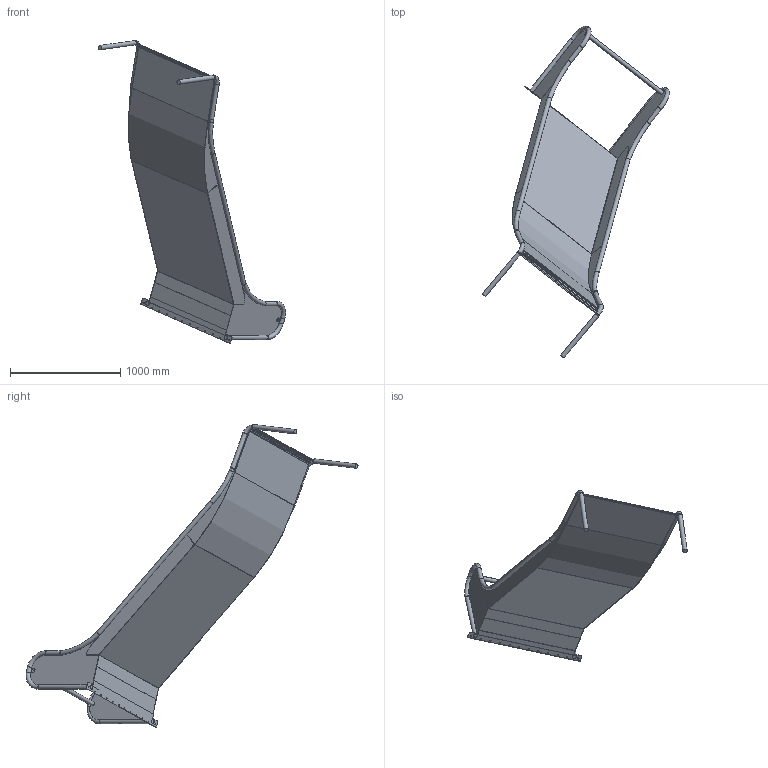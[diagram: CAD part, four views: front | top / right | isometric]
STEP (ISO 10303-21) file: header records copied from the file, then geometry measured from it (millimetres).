
FILE_DESCRIPTION(/* description */ (''),/* implementation_level */ '2;1');
FILE_NAME(/* name */ 'F:\_Inventor\- Tegningsmateriale - kunder\PlayNsafe\PlayNsafe Rutchebaner\Ny mappe\120-1400-1000.stp',/* time_stamp */ '2026-09-08T15:18:39+02:00',/* author */ ('jm'),/* organization */ (''),/* preprocessor_version */ 'ST-DEVELOPER v18.1',/* originating_system */ 'Autodesk Inventor 2022',/* authorisation */ '');
FILE_SCHEMA (('AUTOMOTIVE_DESIGN { 1 0 10303 214 3 1 1 }'));
Length unit declared in the file: millimetre
Products named in the file (11): 120-1400-1000; 120-1000-1000 udløb; 120-2400-1000 bue; 120-2400-1000 udløb; Lb2200 venstre; 120-1400-1000 indløb; 120-2400-1000 forlængerplade til lang siddeområ
de; 120-2400-1000 fortryderstang; 120-2400-1000 monteringsflange; 120-2400-1000 øre; 100-1400-500 rør
Assembly tree (13 placements, depth 3):
  120-1400-1000
    120-1000-1000 udløb
      120-2400-1000 bue
      120-2400-1000 udløb
      Lb2200 venstre  x2
    120-1400-1000 indløb
    120-2400-1000 forlængerplade til lang siddeområ
de
    120-2400-1000 fortryderstang
    120-2400-1000 øre  x2
    120-2400-1000 monteringsflange
    100-1400-500 rør  x2
Bounding box: 1700.37 x 3016.21 x 2751.25 mm (x, y, z)
Volume: 19645746.1 mm3; surface area: 9005499.4 mm2
Topology: 12 solids, 12 shells, 283 faces, 683 edges, 428 vertices
Faces by surface type: plane 147, cylinder 109, cone 10, torus 10, bspline 7
Full cylindrical faces by diameter (mm): 2 x2, 6.5 x10, 11 x1, 13 x1, 34 x1, 38 x3, 39.85 x18
Entity records: 8711 total; most frequent: CARTESIAN_POINT 2682, DIRECTION 1232, ORIENTED_EDGE 1134, EDGE_CURVE 567, AXIS2_PLACEMENT_3D 438, LINE 356, VECTOR 356, VERTEX_POINT 350
